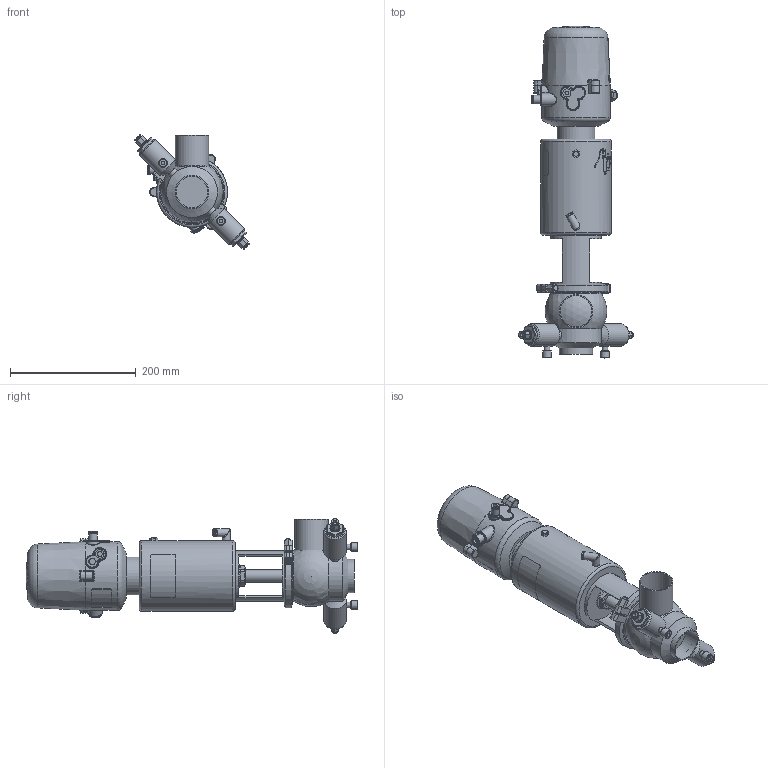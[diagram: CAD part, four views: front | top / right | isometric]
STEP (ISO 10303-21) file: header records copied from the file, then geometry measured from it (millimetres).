
FILE_DESCRIPTION (( 'STEP AP214' ), '1' );
FILE_NAME ('INNOVA D L W DIN 050 T2 AS NC & C-TOP S_10.246.16.0003.STEP', '2024-08-08T09:41:46', ( '' ), ( '' ), 'SwSTEP 2.0', 'SolidWorks 2023', '' );
FILE_SCHEMA (( 'AUTOMOTIVE_DESIGN' ));
Length unit declared in the file: millimetre
Products named in the file (7): 10.240.15.0014_T2 AS P0; INNOVA D L W DIN 050 T2 AS NC & C-TOP S_10.246.16.0003; 10.240.15.0010_DN 050; 10.426.15.0001_C-TOP S - 1 EV; 10.240.15.0017_Estàndard; 10.240.15.0001_DN 050; 10.246.15.0001_DIN 050
Assembly tree (6 placements, depth 2):
  INNOVA D L W DIN 050 T2 AS NC & C-TOP S_10.246.16.0003
    10.246.15.0001_DIN 050
    10.240.15.0010_DN 050
    10.240.15.0014_T2 AS P0
    10.240.15.0017_Estàndard
    10.426.15.0001_C-TOP S - 1 EV
    10.240.15.0001_DN 050
Bounding box: 181.87 x 527 x 181.87 mm (x, y, z)
Volume: 3799887.8 mm3; surface area: 304344.4 mm2
Topology: 6 solids, 6 shells, 1195 faces, 2836 edges, 1880 vertices
Faces by surface type: plane 441, cylinder 350, cone 202, bspline 160, torus 36, sphere 6
Full cylindrical faces by diameter (mm): 0.371 x17, 0.512 x16, 0.658 x16, 0.795 x16, 0.94 x15, 1.098 x15, 1.241 x13, 1.382 x13, 1.523 x11, 1.669 x10, 2.201 x1, 4 x2, 5.5 x2, 6 x6, 6.15 x1, 8 x4, 8.5 x1, 9 x2, 10 x3, 10.5 x1, 11 x2, 12 x4, 12.5 x3, 13 x2, 13.5 x2, 14 x4, 15 x2, 16 x1, 17 x3, 20 x3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
Entity records: 60329 total; most frequent: CARTESIAN_POINT 28474, ORIENTED_EDGE 4812, DIRECTION 3997, EDGE_CURVE 2406, VERTEX_POINT 1709, EDGE_LOOP 1691, AXIS2_PLACEMENT_3D 1616, FACE_OUTER_BOUND 1426
